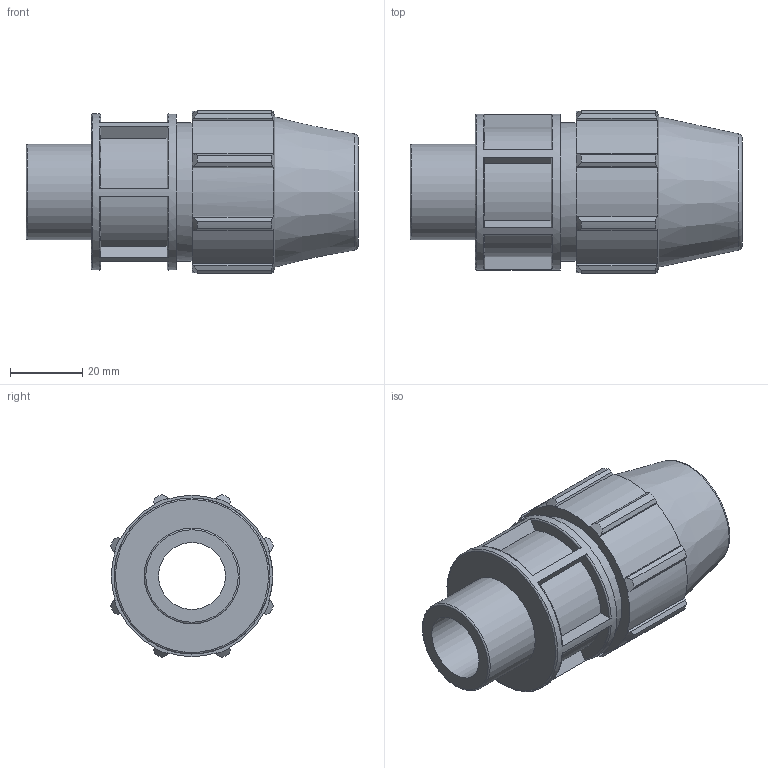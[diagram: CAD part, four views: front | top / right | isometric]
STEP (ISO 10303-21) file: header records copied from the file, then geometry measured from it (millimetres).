
FILE_DESCRIPTION(/* description */ ('PLASSON MALE ADAPTOR 1/2'''' - 3/4''''M'),/* implementation_level */ '2;1');
FILE_NAME(/* name */ 'C:\Dropbox\KIMPROJECTS-Inventor 2019\99-16-3568-Processing Inch\ASTM Compression 2021\0702M0\0702M0005007.ipt.stp',/* time_stamp */ '2021-08-26T12:30:01+03:00',/* author */ ('KIM'),/* organization */ (''),/* preprocessor_version */ 'ST-DEVELOPER v17.2',/* originating_system */ 'Autodesk Inventor 2019',/* authorisation */ '');
FILE_SCHEMA (('AUTOMOTIVE_DESIGN { 1 0 10303 214 3 1 1 }'));
Length unit declared in the file: inch
Products named in the file (1): 0702M0005007
Bounding box: 91.95 x 45.17 x 45.17 mm (x, y, z)
Volume: 71654.3 mm3; surface area: 21562.1 mm2
Topology: 1 solids, 1 shells, 117 faces, 327 edges, 223 vertices
Faces by surface type: plane 63, cylinder 27, torus 15, cone 12
Full cylindrical faces by diameter (mm): 18.509 x1, 21.2 x1, 26.441 x1, 38.405 x1, 43.205 x1
Entity records: 4135 total; most frequent: CARTESIAN_POINT 948, ORIENTED_EDGE 654, DIRECTION 625, EDGE_CURVE 327, AXIS2_PLACEMENT_3D 236, VERTEX_POINT 223, LINE 153, VECTOR 153
